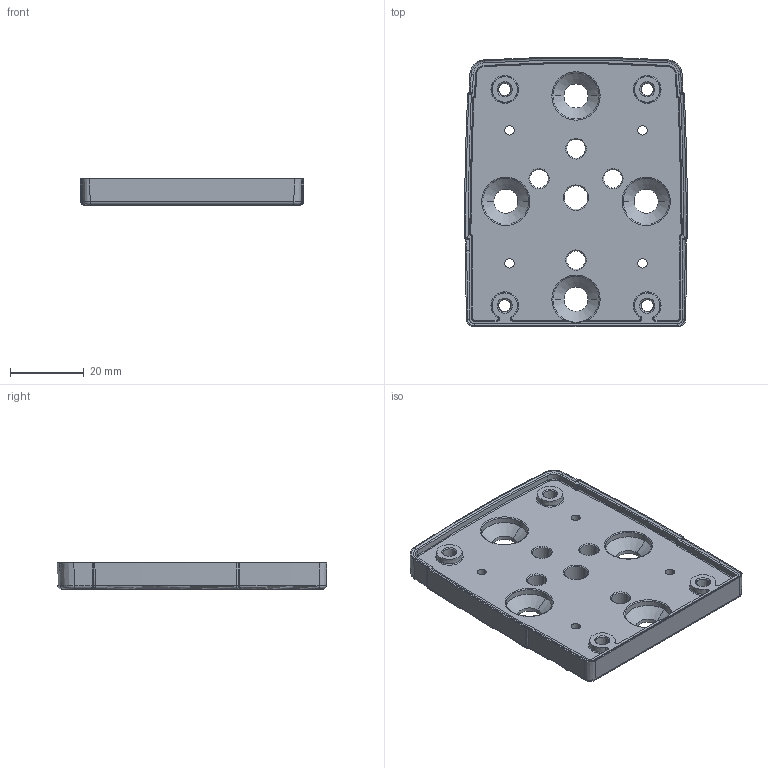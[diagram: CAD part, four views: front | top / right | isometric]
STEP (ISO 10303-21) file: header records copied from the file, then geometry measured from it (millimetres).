
FILE_DESCRIPTION (( 'STEP AP214' ), '1' );
FILE_NAME ('IS016-04_10-26-16.STEP', '2016-10-26T20:12:20', ( 'Cognoid' ), ( 'Microsoft' ), 'SwSTEP 2.0', 'SolidWorks 2016', '' );
FILE_SCHEMA (( 'AUTOMOTIVE_DESIGN' ));
Length unit declared in the file: millimetre
Products named in the file (1): IS016-04_10-26-16
Bounding box: 60.5 x 72.91 x 7.15 mm (x, y, z)
Volume: 18501.2 mm3; surface area: 12411.6 mm2
Topology: 1 solids, 1 shells, 688 faces, 1595 edges, 920 vertices
Faces by surface type: bspline 224, cylinder 160, cone 113, torus 91, plane 79, sphere 21
Entity records: 26627 total; most frequent: CARTESIAN_POINT 10588, ORIENTED_EDGE 3174, DIRECTION 2688, EDGE_CURVE 1587, AXIS2_PLACEMENT_3D 1142, VERTEX_POINT 920, EDGE_LOOP 741, ADVANCED_FACE 688
